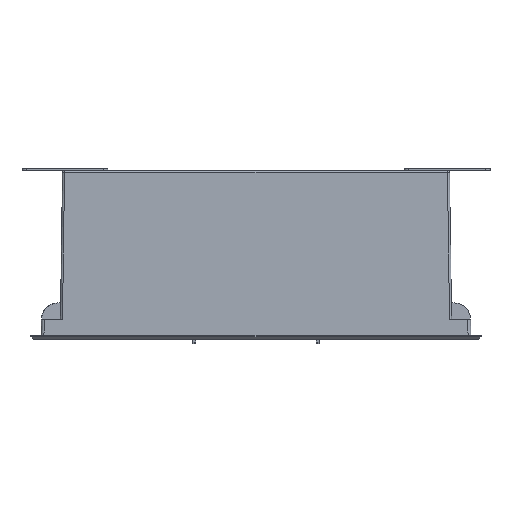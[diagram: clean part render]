
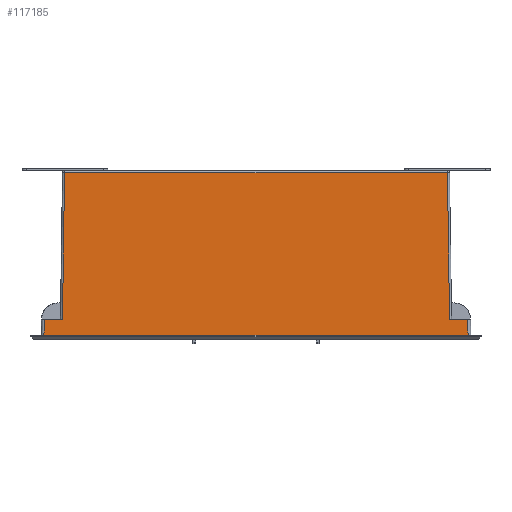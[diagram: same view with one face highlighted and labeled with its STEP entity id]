
A CAD part, top view. The second image highlights one B-rep face of the part: STEP entity #117185.
In plain terms, the highlighted planar face has unit normal (0, 0.014, 1) as drawn and (0, -0.014, -1) by its records, which use the part's own axes.
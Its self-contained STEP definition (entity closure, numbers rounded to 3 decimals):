
#110874=CARTESIAN_POINT('',(-154.299,0.,-28.839));
#110884=CARTESIAN_POINT('',(-141.,0.,-28.839));
#110886=DIRECTION('',(0.017,-1.,0.014));
#110887=VECTOR('',#110886,11.503);
#110888=CARTESIAN_POINT('',(-154.5,11.5,-29.));
#110889=LINE('',#110888,#110887);
#110890=DIRECTION('',(1.,0.,0.));
#110891=VECTOR('',#110890,13.299);
#110892=CARTESIAN_POINT('',(-154.299,0.,
-28.839));
#110893=LINE('',#110892,#110891);
#110894=DIRECTION('',(0.014,-1.,0.014));
#110895=VECTOR('',#110894,107.042);
#110896=CARTESIAN_POINT('',(-141.,0.,
-28.839));
#110897=LINE('',#110896,#110895);
#110898=DIRECTION('',(0.014,1.,-0.014));
#110899=VECTOR('',#110898,107.042);
#110900=CARTESIAN_POINT('',(139.506,-107.021,
-27.345));
#110901=LINE('',#110900,#110899);
#110902=DIRECTION('',(1.,0.,0.));
#110903=VECTOR('',#110902,13.299);
#110904=CARTESIAN_POINT('',(141.,0.,-28.839));
#110905=LINE('',#110904,#110903);
#110906=DIRECTION('',(0.017,1.,-0.014));
#110907=VECTOR('',#110906,11.503);
#110908=CARTESIAN_POINT('',(154.299,0.,
-28.839));
#110909=LINE('',#110908,#110907);
#111060=DIRECTION('',(1.,0.,0.));
#111061=VECTOR('',#111060,309.);
#111062=CARTESIAN_POINT('',(-154.5,11.5,-29.));
#111063=LINE('',#111062,#111061);
#111122=CARTESIAN_POINT('',(154.299,0.,-28.839));
#115694=DIRECTION('',(-1.,0.,0.));
#115695=VECTOR('',#115694,279.011);
#115696=CARTESIAN_POINT('',(139.506,-107.021,
-27.345));
#115697=LINE('',#115696,#115695);
#115702=VERTEX_POINT('',#110874);
#115710=VERTEX_POINT('',#110884);
#115721=VERTEX_POINT('',#111122);
#115722=CARTESIAN_POINT('',(141.,0.,-28.839));
#115723=VERTEX_POINT('',#115722);
#115738=CARTESIAN_POINT('',(-154.5,11.5,-29.));
#115739=VERTEX_POINT('',#115738);
#115741=CARTESIAN_POINT('',(-139.506,-107.021,
-27.345));
#115742=VERTEX_POINT('',#115741);
#115743=CARTESIAN_POINT('',(139.506,-107.021,
-27.345));
#115744=VERTEX_POINT('',#115743);
#115745=CARTESIAN_POINT('',(154.5,11.5,-29.));
#115746=VERTEX_POINT('',#115745);
#117164=CARTESIAN_POINT('',(161.702,11.5,-29.));
#117165=DIRECTION('',(0.,-0.014,-1.));
#117166=DIRECTION('',(-1.,0.,0.));
#117167=AXIS2_PLACEMENT_3D('',#117164,#117165,#117166);
#117168=PLANE('',#117167);
#117169=ORIENTED_EDGE('',*,*,#117155,.T.);
#117170=ORIENTED_EDGE('',*,*,#117144,.T.);
#117172=ORIENTED_EDGE('',*,*,#117171,.T.);
#117174=ORIENTED_EDGE('',*,*,#117173,.F.);
#117176=ORIENTED_EDGE('',*,*,#117175,.T.);
#117178=ORIENTED_EDGE('',*,*,#117177,.T.);
#117180=ORIENTED_EDGE('',*,*,#117179,.T.);
#117182=ORIENTED_EDGE('',*,*,#117181,.F.);
#117183=EDGE_LOOP('',(#117169,#117170,#117172,#117174,#117176,#117178,#117180,
#117182));
#117184=FACE_OUTER_BOUND('',#117183,.F.);
#117185=ADVANCED_FACE('',(#117184),#117168,.T.);
#117144=EDGE_CURVE('',#115702,#115710,#110893,.T.);
#117155=EDGE_CURVE('',#115739,#115702,#110889,.T.);
#117171=EDGE_CURVE('',#115710,#115742,#110897,.T.);
#117173=EDGE_CURVE('',#115744,#115742,#115697,.T.);
#117175=EDGE_CURVE('',#115744,#115723,#110901,.T.);
#117177=EDGE_CURVE('',#115723,#115721,#110905,.T.);
#117179=EDGE_CURVE('',#115721,#115746,#110909,.T.);
#117181=EDGE_CURVE('',#115739,#115746,#111063,.T.);
